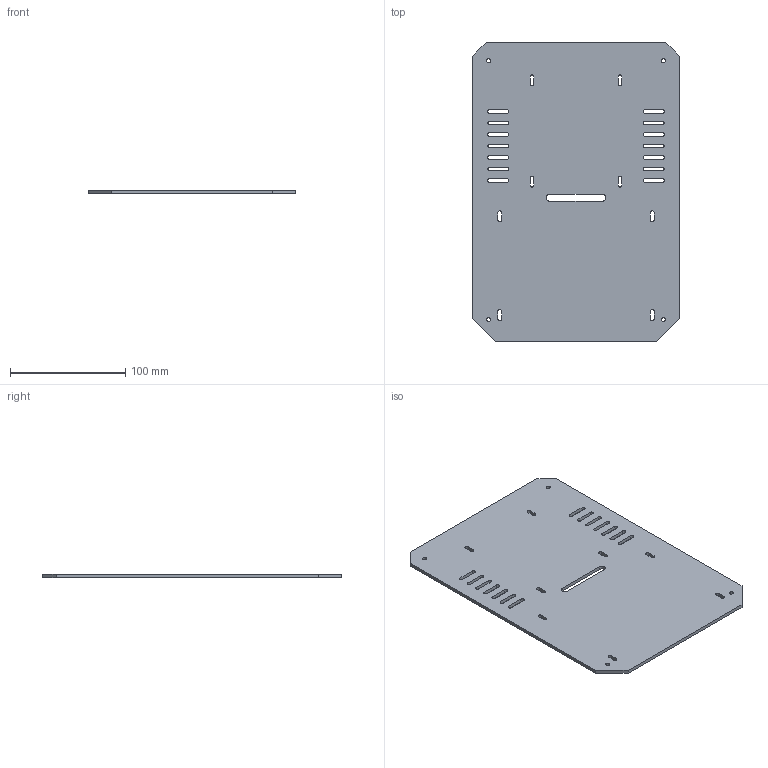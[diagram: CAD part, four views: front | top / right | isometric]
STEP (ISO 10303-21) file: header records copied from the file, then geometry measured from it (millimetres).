
FILE_DESCRIPTION(('FreeCAD Model'),'2;1');
FILE_NAME('Open CASCADE Shape Model','2026-10-12T22:45:25',('FreeCAD'),( 'FreeCAD'),'Open CASCADE STEP processor 7.8','FreeCAD','Unknown');
FILE_SCHEMA(('AUTOMOTIVE_DESIGN { 1 0 10303 214 1 1 1 1 }'));
Length unit declared in the file: millimetre
Products named in the file (1): Open CASCADE STEP translator 7.8 4
Bounding box: 180 x 260 x 3 mm (x, y, z)
Volume: 134684.9 mm3; surface area: 95004.8 mm2
Topology: 1 solids, 1 shells, 106 faces, 312 edges, 208 vertices
Faces by surface type: plane 56, cylinder 50
Full cylindrical faces by diameter (mm): 3.4 x4
Entity records: 3674 total; most frequent: CARTESIAN_POINT 627, DIRECTION 626, ORIENTED_EDGE 624, EDGE_CURVE 312, LINE 212, VECTOR 212, VERTEX_POINT 208, AXIS2_PLACEMENT_3D 207
